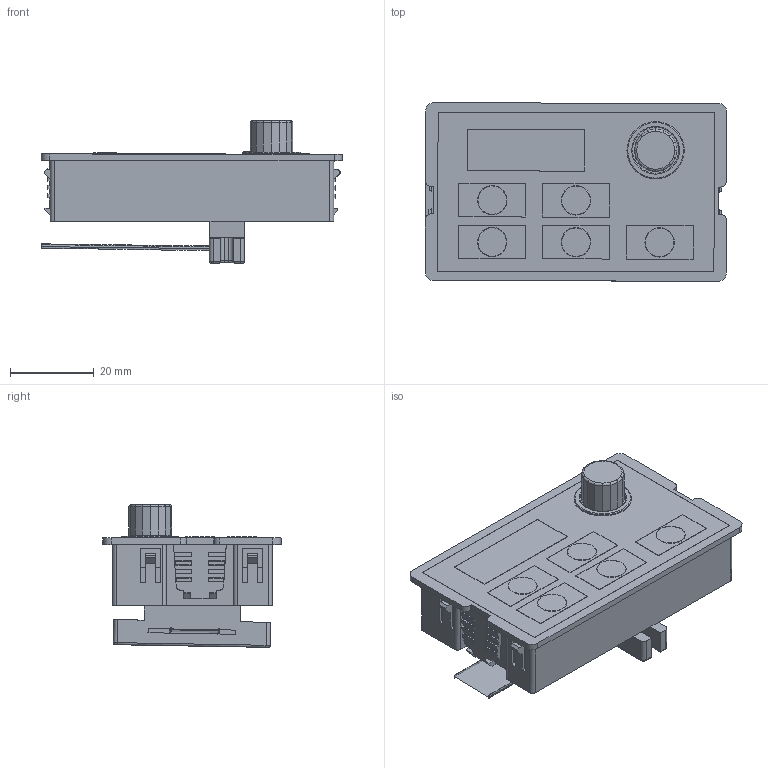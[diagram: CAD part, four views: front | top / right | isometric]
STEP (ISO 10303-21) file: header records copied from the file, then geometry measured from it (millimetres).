
FILE_DESCRIPTION(('FreeCAD Model'),'2;1');
FILE_NAME('Open CASCADE Shape Model','2022-08-31T14:21:14',( 'Engenharia Meltaltex'),('Engenharia Meltaltex'), 'Open CASCADE STEP processor 7.5','FreeCAD','Unknown');
FILE_SCHEMA(('AUTOMOTIVE_DESIGN { 1 0 10303 214 1 1 1 1 }'));
Length unit declared in the file: millimetre
Products named in the file (9): IF10-KEP + IF10-CT; IF10; Placa; Fusion; Cabo001; Array001; Body015; Body014; Male to Male.Harness006
Assembly tree (17 placements, depth 4):
  IF10-KEP + IF10-CT
    IF10
      Placa
      Fusion
    Cabo001
      Array001
        Body015  x10
      Body014
      Male to Male.Harness006
Bounding box: 72.08 x 42.63 x 34.12 mm (x, y, z)
Volume: 24965.1 mm3; surface area: 27561.9 mm2
Topology: 14 solids, 17 shells, 625 faces, 1525 edges, 965 vertices
Faces by surface type: plane 424, cylinder 181, torus 17, bspline 3
Full cylindrical faces by diameter (mm): 2 x2, 2.2 x2, 7 x5, 8 x2, 11 x1, 13.7 x1
Entity records: 17993 total; most frequent: CARTESIAN_POINT 3038, DIRECTION 2839, ORIENTED_EDGE 2826, EDGE_CURVE 1417, LINE 1147, VECTOR 1147, VERTEX_POINT 893, AXIS2_PLACEMENT_3D 846
